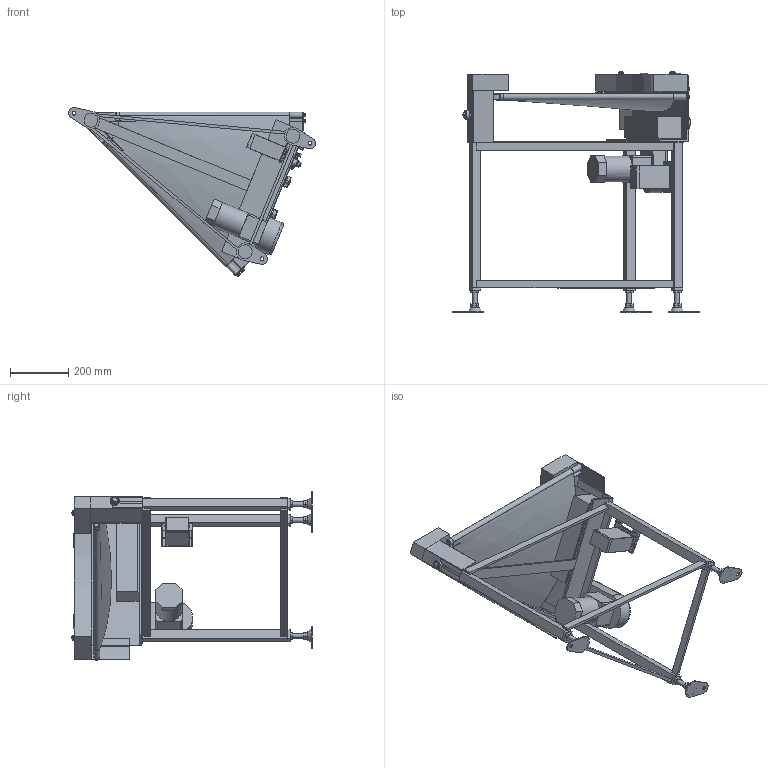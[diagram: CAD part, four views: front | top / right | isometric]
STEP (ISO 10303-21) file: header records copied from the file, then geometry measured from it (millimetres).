
FILE_DESCRIPTION (( 'STEP AP214' ), '1' );
FILE_NAME ('GBC45-UD500-L.STEP', '2022-12-05T07:31:42', ( '' ), ( '' ), 'SwSTEP 2.0', 'SolidWorks 2017', '' );
FILE_SCHEMA (( 'AUTOMOTIVE_DESIGN' ));
Length unit declared in the file: millimetre
Products named in the file (1): GBC45-UD500-L
Bounding box: 848.72 x 827.92 x 579.91 mm (x, y, z)
Volume: 15096985.6 mm3; surface area: 2970354.6 mm2
Topology: 56 solids, 56 shells, 886 faces, 2020 edges, 1303 vertices
Faces by surface type: plane 570, cylinder 185, bspline 67, cone 49, torus 8, sphere 7
Full cylindrical faces by diameter (mm): 4.2 x4, 4.5 x2, 5 x4, 6 x13, 6.4 x4, 7 x3, 8 x1, 9 x2, 10 x6, 12 x1, 12.2 x2, 12.5 x7, 13 x7, 15 x4, 16 x10, 18 x2, 18.4 x1, 20 x6, 21 x1, 22.2 x1, 25 x1, 30 x1, 89 x1
Entity records: 32528 total; most frequent: CARTESIAN_POINT 12941, ORIENTED_EDGE 3740, DIRECTION 3696, EDGE_CURVE 1870, VERTEX_POINT 1274, AXIS2_PLACEMENT_3D 1252, LINE 1192, VECTOR 1192
